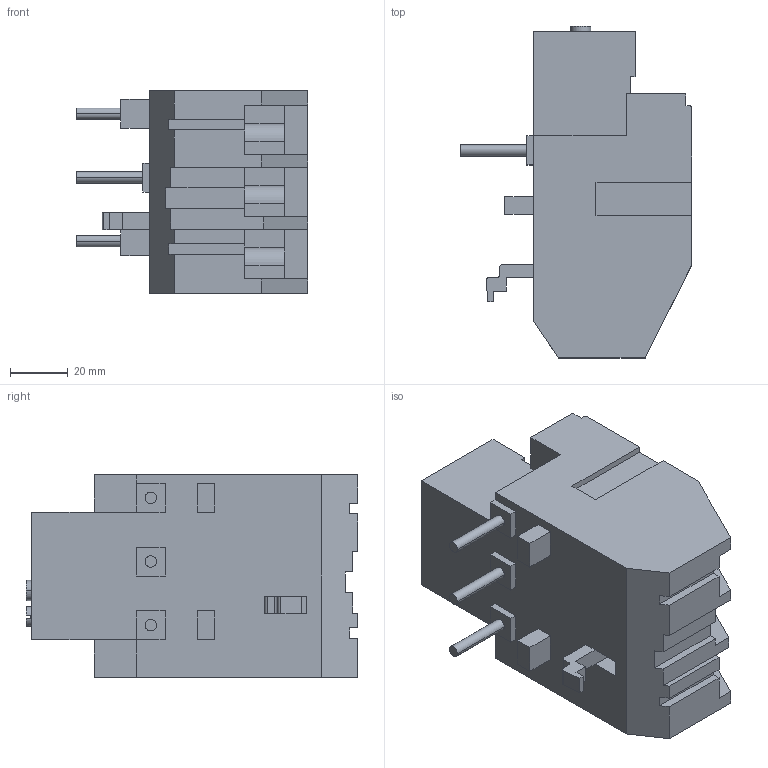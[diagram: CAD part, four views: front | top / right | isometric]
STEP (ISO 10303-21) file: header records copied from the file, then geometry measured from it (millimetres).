
FILE_DESCRIPTION (( 'STEP AP203' ), '1' );
FILE_NAME ('ﾐﾒﾋ-2057-2-100ﾀ-(37-50ﾀ)-ﾓﾕﾋ4 (110755).STEP', '2015-12-17T10:31:21', ( '' ), ( '' ), 'SwSTEP 2.0', 'SolidWorks 2012', '' );
FILE_SCHEMA (( 'CONFIG_CONTROL_DESIGN' ));
Length unit declared in the file: millimetre
Products named in the file (1): ﾐﾒﾋ-2057-2-100ﾀ-(37-50ﾀ)-ﾓﾕﾋ4 (110755)
Bounding box: 79.8 x 114.5 x 70 mm (x, y, z)
Volume: 289463.6 mm3; surface area: 50602.2 mm2
Topology: 1 solids, 1 shells, 237 faces, 641 edges, 425 vertices
Faces by surface type: plane 187, cylinder 50
Entity records: 7712 total; most frequent: CARTESIAN_POINT 1560, ORIENTED_EDGE 1282, DIRECTION 1209, EDGE_CURVE 641, VECTOR 533, LINE 533, VERTEX_POINT 425, AXIS2_PLACEMENT_3D 338
